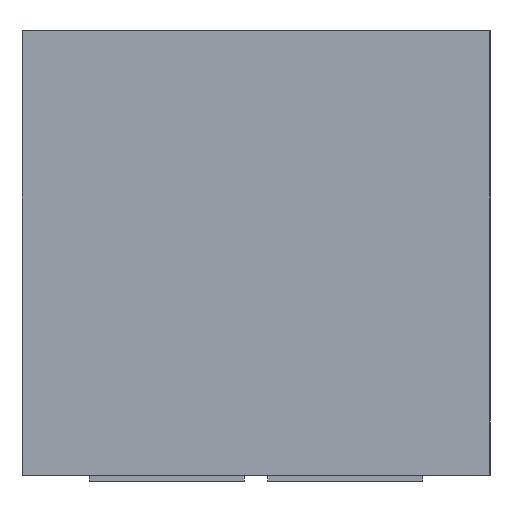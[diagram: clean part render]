
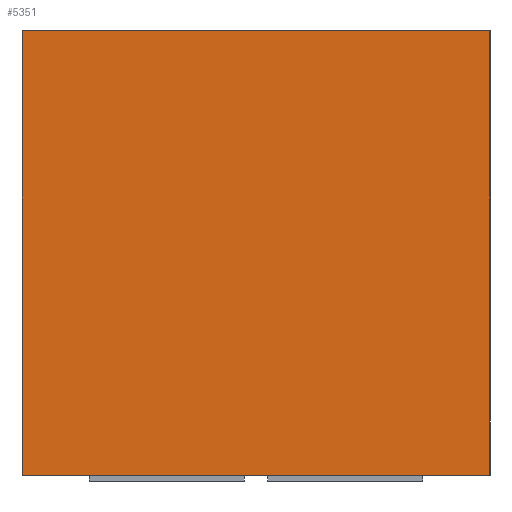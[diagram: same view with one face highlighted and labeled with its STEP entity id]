
A CAD part, left-side view. The second image highlights one B-rep face of the part: STEP entity #5351.
In plain terms, the highlighted planar face has unit normal (-1, 0, 0).
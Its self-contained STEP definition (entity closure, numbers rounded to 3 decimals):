
#116 = CARTESIAN_POINT ( 'NONE',  ( 0., 0., 7.6 ) ) ;
#504 = EDGE_CURVE ( 'NONE', #2340, #3411, #3131, .T. ) ;
#522 = VECTOR ( 'NONE', #5847, 1000. ) ;
#776 = DIRECTION ( 'NONE',  ( 0., -1., 0. ) ) ;
#797 = CARTESIAN_POINT ( 'NONE',  ( 0., 0., 0. ) ) ;
#838 = CARTESIAN_POINT ( 'NONE',  ( 0., 0., 7.6 ) ) ;
#861 = CARTESIAN_POINT ( 'NONE',  ( 0., -8., 0. ) ) ;
#1240 = VERTEX_POINT ( 'NONE', #4829 ) ;
#1294 = CARTESIAN_POINT ( 'NONE',  ( 0., 0., 0. ) ) ;
#1571 = VECTOR ( 'NONE', #4578, 1000. ) ;
#1698 = LINE ( 'NONE', #838, #4444 ) ;
#1838 = PLANE ( 'NONE',  #5501 ) ;
#2058 = DIRECTION ( 'NONE',  ( 0., 0., -1. ) ) ;
#2264 = DIRECTION ( 'NONE',  ( 0., 1., 0. ) ) ;
#2340 = VERTEX_POINT ( 'NONE', #1294 ) ;
#2786 = LINE ( 'NONE', #5467, #1571 ) ;
#3131 = LINE ( 'NONE', #797, #522 ) ;
#3160 = CARTESIAN_POINT ( 'NONE',  ( 0., 0., 7.6 ) ) ;
#3191 = CARTESIAN_POINT ( 'NONE',  ( 0., 0., 7.6 ) ) ;
#3227 = EDGE_LOOP ( 'NONE', ( #5481, #3713, #5218, #4548 ) ) ;
#3411 = VERTEX_POINT ( 'NONE', #861 ) ;
#3670 = FACE_OUTER_BOUND ( 'NONE', #3227, .T. ) ;
#3713 = ORIENTED_EDGE ( 'NONE', *, *, #5135, .F. ) ;
#3896 = VERTEX_POINT ( 'NONE', #116 ) ;
#4204 = EDGE_CURVE ( 'NONE', #3896, #2340, #5394, .T. ) ;
#4444 = VECTOR ( 'NONE', #776, 1000. ) ;
#4548 = ORIENTED_EDGE ( 'NONE', *, *, #4204, .T. ) ;
#4578 = DIRECTION ( 'NONE',  ( 0., 0., -1. ) ) ;
#4829 = CARTESIAN_POINT ( 'NONE',  ( 0., -8., 7.6 ) ) ;
#5135 = EDGE_CURVE ( 'NONE', #1240, #3411, #2786, .T. ) ;
#5218 = ORIENTED_EDGE ( 'NONE', *, *, #5520, .F. ) ;
#5351 = ADVANCED_FACE ( 'NONE', ( #3670 ), #1838, .F. ) ;
#5394 = LINE ( 'NONE', #3191, #5604 ) ;
#5396 = DIRECTION ( 'NONE',  ( 1., 0., 0. ) ) ;
#5467 = CARTESIAN_POINT ( 'NONE',  ( 0., -8., 7.6 ) ) ;
#5481 = ORIENTED_EDGE ( 'NONE', *, *, #504, .T. ) ;
#5501 = AXIS2_PLACEMENT_3D ( 'NONE', #3160, #5396, #2264 ) ;
#5520 = EDGE_CURVE ( 'NONE', #3896, #1240, #1698, .T. ) ;
#5604 = VECTOR ( 'NONE', #2058, 1000. ) ;
#5847 = DIRECTION ( 'NONE',  ( 0., -1., 0. ) ) ;
